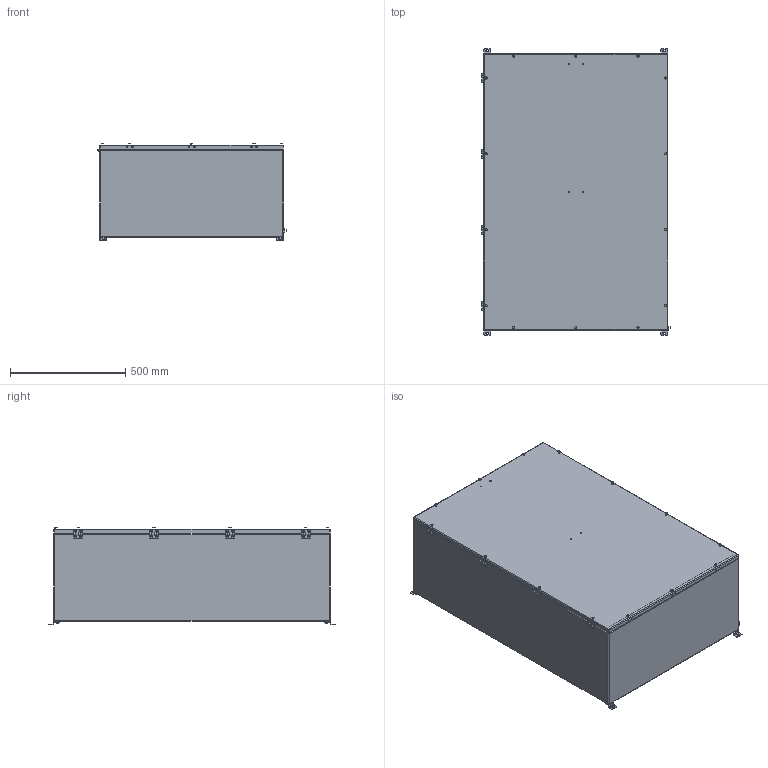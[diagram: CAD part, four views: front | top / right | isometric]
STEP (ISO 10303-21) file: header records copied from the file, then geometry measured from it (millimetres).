
FILE_DESCRIPTION((''),'2;1');
FILE_NAME('\\192.168.5.25\cortem_klient\INVENTOR БАЗА МОДЕЛЕЙ\Актуальная база моделей для отдела продаж\КСРВ-Н\КСРВ-Н1208040_М5.stp','2019-04-09T14:22:09',('A.S.Kozlov'),(''),'Autodesk Inventor 2012','Autodesk Inventor 2012','');
FILE_SCHEMA(('CONFIG_CONTROL_DESIGN'));
Length unit declared in the file: millimetre
Products named in the file (1): КСРВ-(параметрическая модель)_Внешний контур_1
Bounding box: 819.19 x 1244 x 421.7 mm (x, y, z)
Surface area: 3538517.7 mm2 (no closed solid volume)
Topology: 0 solids, 63 shells, 127 faces, 746 edges, 670 vertices
Faces by surface type: plane 70, cylinder 49, sphere 8
Full cylindrical faces by diameter (mm): 0.8 x2
Entity records: 7910 total; most frequent: CARTESIAN_POINT 1534, DIRECTION 1330, ORIENTED_EDGE 834, EDGE_CURVE 738, VERTEX_POINT 666, AXIS2_PLACEMENT_3D 465, VECTOR 400, LINE 400
